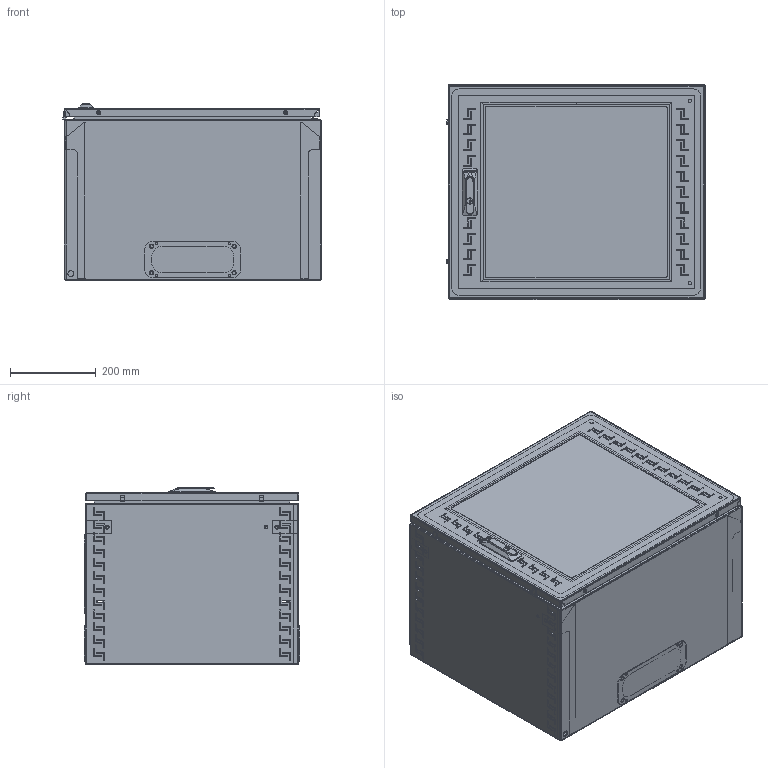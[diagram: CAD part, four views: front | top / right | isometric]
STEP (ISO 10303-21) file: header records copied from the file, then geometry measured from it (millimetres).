
FILE_DESCRIPTION (( 'STEP AP203' ), '1' );
FILE_NAME ('R5STI0940GS.STEP', '2019-07-16T12:00:01', ( '' ), ( '' ), 'SwSTEP 2.0', 'SolidWorks 2017', '' );
FILE_SCHEMA (( 'CONFIG_CONTROL_DESIGN' ));
Length unit declared in the file: millimetre
Products named in the file (40): 4.8x13 DIN 7981 (R5A07)_straight; AC00C112; M4x8 GOST 17475-80 (DIN 965)_straight; Ì6õ12-A5100231_straight; MirrorRB.0374.00.01.0_-00 (400)<As Machined>; M6x10-A1100004_straight; PF 7,5x15 door STI_0500x0600; AC00C383; RB.0374.01.00.0 CÁ_-00 (500å600å400); MirrorMirrorRB.0374.00.01.0_-00 (400)<As Machined><As Machined>; Handle 308 Mesan; Glass STI_0500x0600; AC00C061_AC00C061; RB.0374.03.01.0; AC00C380; RB.0374.06.00.0 捘_-04 (500x600 glass); Glue STI_0500x0600; M6-DIN 6923 (CM100600)_straight; RB.0374.03.00.0 CÁ; R5STI0940GS; RB.0374.00.01.0_-00 (400); Handle Mesan (part 1); RB.0374.02.00.0 C縫-00 (500x600x400); RB.0374.04.01.0; RB.0374.00.02.0_-00 (9U); Handle Mesan (part 2); RB.0374.05.01.0_-04 (500x600 glass); RB.0374.04.00.0 CÁ; RB.0374.01.01.0_-00 (500x600x400); RB.0374.00.02.0 mirror_-04 (9U); Catch Mesan; AC00C398; RB.0048.02.01.0; RB.0374.01.02.0_-00 (500x600); M6x12-DIN 6921_stright; Handle Mesan (part 3); RB.0374.05.00.0 捘_-04 (500x600 glass); AC00C399; Ì6õ20-A5100001_straight; AC00C401_AC00C401
Assembly tree (102 placements, depth 4):
  R5STI0940GS
    RB.0374.02.00.0 C縫-00 (500x600x400)
      RB.0374.01.00.0 CÁ_-00 (500å600å400)
        RB.0374.01.01.0_-00 (500x600x400)
        RB.0374.01.02.0_-00 (500x600)
        Ì6õ20-A5100001_straight  x4
        Ì6õ12-A5100231_straight  x6
      RB.0374.03.00.0 CÁ
        RB.0374.03.01.0
        Ì6õ12-A5100231_straight  x4
      RB.0374.04.00.0 CÁ  x2
        RB.0374.04.01.0
        Ì6õ12-A5100231_straight
      RB.0048.02.01.0  x2
      AC00C399  x2
      M4x8 GOST 17475-80 (DIN 965)_straight  x4
      AC00C383  x2
      AC00C061_AC00C061  x2
      M6-DIN 6923 (CM100600)_straight  x12
    RB.0374.06.00.0 捘_-04 (500x600 glass)
      RB.0374.05.00.0 捘_-04 (500x600 glass)
        RB.0374.05.01.0_-04 (500x600 glass)
        AC00C398  x2
        Ì6õ12-A5100231_straight  x2
      AC00C112  x4
      AC00C061_AC00C061  x2
      PF 7,5x15 door STI_0500x0600
      Glass STI_0500x0600
      Glue STI_0500x0600
      Handle 308 Mesan
        Handle Mesan (part 1)
        Handle Mesan (part 2)
        Catch Mesan
        Handle Mesan (part 3)
        4.8x13 DIN 7981 (R5A07)_straight  x3
        M6x10-A1100004_straight
    RB.0374.00.01.0_-00 (400)
    RB.0374.00.02.0_-00 (9U)
    RB.0374.00.02.0 mirror_-04 (9U)
    M6x12-DIN 6921_stright  x4
    M6-DIN 6923 (CM100600)_straight  x12
    AC00C401_AC00C401  x2
    MirrorRB.0374.00.01.0_-00 (400)<As Machined>  x2
    MirrorMirrorRB.0374.00.01.0_-00 (400)<As Machined><As Machined>
    AC00C380  x2
Bounding box: 603.87 x 503 x 414.97 mm (x, y, z)
Volume: 3302926.6 mm3; surface area: 3747271.6 mm2
Topology: 142 solids, 142 shells, 5208 faces, 13197 edges, 8371 vertices
Faces by surface type: plane 3081, cylinder 992, cone 473, bspline 462, torus 174, sphere 26
Entity records: 128927 total; most frequent: CARTESIAN_POINT 33995, ORIENTED_EDGE 18902, DIRECTION 16859, EDGE_CURVE 9451, VECTOR 7271, LINE 7271, VERTEX_POINT 6102, AXIS2_PLACEMENT_3D 4794
